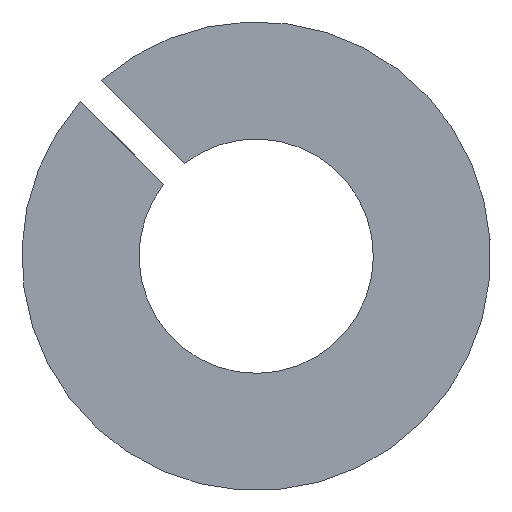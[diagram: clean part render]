
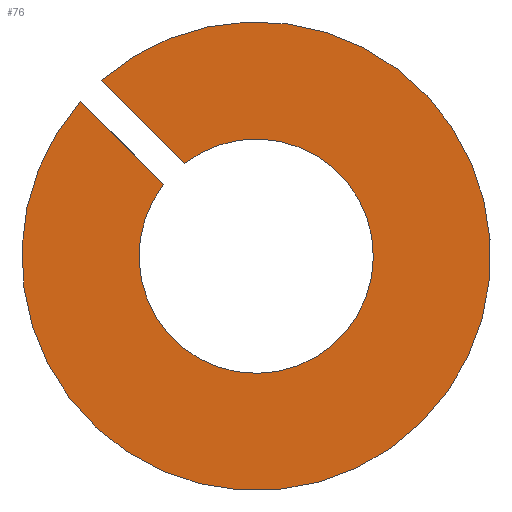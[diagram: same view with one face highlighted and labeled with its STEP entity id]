
A CAD part, left-side view. The second image highlights one B-rep face of the part: STEP entity #76.
In plain terms, the highlighted planar face has unit normal (-1, 0, 0).
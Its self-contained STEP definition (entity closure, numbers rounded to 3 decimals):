
#76 = ADVANCED_FACE( '', ( #92 ), #93, .T. );
#92 = FACE_OUTER_BOUND( '', #120, .T. );
#93 = PLANE( '', #121 );
#120 = EDGE_LOOP( '', ( #153, #154, #155, #156 ) );
#121 = AXIS2_PLACEMENT_3D( '', #157, #158, #159 );
#153 = ORIENTED_EDGE( '', *, *, #264, .T. );
#154 = ORIENTED_EDGE( '', *, *, #265, .T. );
#155 = ORIENTED_EDGE( '', *, *, #260, .F. );
#156 = ORIENTED_EDGE( '', *, *, #266, .T. );
#157 = CARTESIAN_POINT( '', ( 0., 8., 0. ) );
#158 = DIRECTION( '', ( -1., 0., 0. ) );
#159 = DIRECTION( '', ( 0., 0., 1. ) );
#260 = EDGE_CURVE( '', #296, #297, #298, .T. );
#264 = EDGE_CURVE( '', #304, #305, #306, .T. );
#265 = EDGE_CURVE( '', #305, #297, #307, .T. );
#266 = EDGE_CURVE( '', #296, #304, #308, .T. );
#296 = VERTEX_POINT( '', #356 );
#297 = VERTEX_POINT( '', #357 );
#298 = CIRCLE( '', #358, 8. );
#304 = VERTEX_POINT( '', #366 );
#305 = VERTEX_POINT( '', #367 );
#306 = CIRCLE( '', #368, 4. );
#307 = LINE( '', #369, #370 );
#308 = LINE( '', #371, #372 );
#356 = CARTESIAN_POINT( '', ( 0., 5.292, 5.999 ) );
#357 = CARTESIAN_POINT( '', ( 0., 5.999, 5.292 ) );
#358 = AXIS2_PLACEMENT_3D( '', #440, #441, #442 );
#366 = CARTESIAN_POINT( '', ( 0., 2.453, 3.16 ) );
#367 = CARTESIAN_POINT( '', ( 0., 3.16, 2.453 ) );
#368 = AXIS2_PLACEMENT_3D( '', #448, #449, #450 );
#369 = CARTESIAN_POINT( '', ( 0., 2.828, 2.121 ) );
#370 = VECTOR( '', #451, 1000. );
#371 = CARTESIAN_POINT( '', ( 0., 5.657, 6.364 ) );
#372 = VECTOR( '', #452, 1000. );
#440 = CARTESIAN_POINT( '', ( 0., 0., 0. ) );
#441 = DIRECTION( '', ( 1., 0., 0. ) );
#442 = DIRECTION( '', ( 0., 0., -1. ) );
#448 = CARTESIAN_POINT( '', ( 0., 0., 0. ) );
#449 = DIRECTION( '', ( 1., 0., 0. ) );
#450 = DIRECTION( '', ( 0., 0., -1. ) );
#451 = DIRECTION( '', ( 0., 0.707, 0.707 ) );
#452 = DIRECTION( '', ( 0., -0.707, -0.707 ) );
